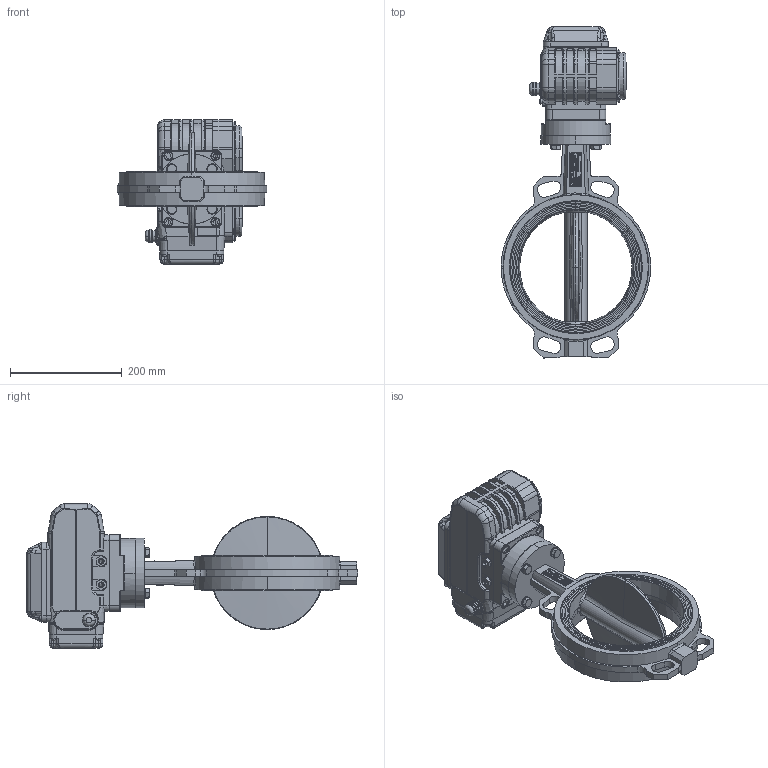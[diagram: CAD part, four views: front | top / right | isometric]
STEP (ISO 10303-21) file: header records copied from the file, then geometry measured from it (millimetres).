
FILE_DESCRIPTION (( 'STEP AP214' ), '1' );
FILE_NAME ('VPG444X-NX4XX0200.step', '2022-07-06T07:57:56', ( '' ), ( '' ), 'SwSTEP 2.0', 'SolidWorks 2020', '' );
FILE_SCHEMA (( 'AUTOMOTIVE_DESIGN' ));
Length unit declared in the file: millimetre
Products named in the file (1): VPG444X-NX4XX0200
Bounding box: 267.32 x 593.39 x 258 mm (x, y, z)
Surface area: 508974.5 mm2 (no closed solid volume)
Topology: 0 solids, 68 shells, 1211 faces, 5643 edges, 4456 vertices
Faces by surface type: plane 428, cylinder 405, bspline 265, cone 68, torus 45
Entity records: 100272 total; most frequent: CARTESIAN_POINT 45763, ORIENTED_EDGE 8278, DIRECTION 7031, EDGE_CURVE 5619, VERTEX_POINT 4456, VECTOR 2937, LINE 2937, AXIS2_PLACEMENT_3D 2047
